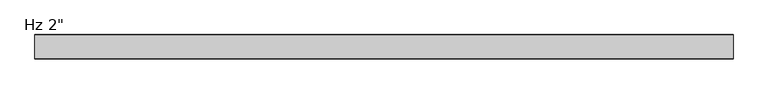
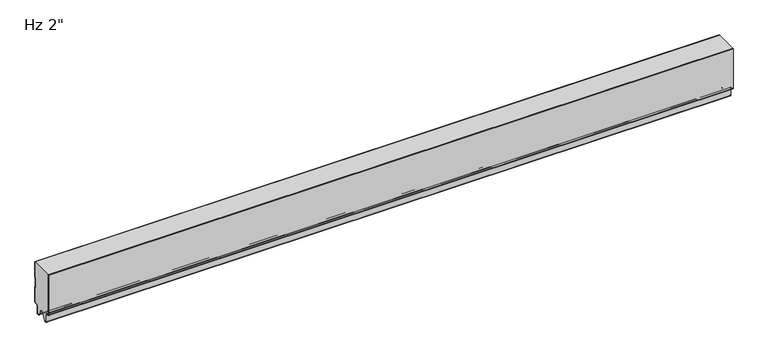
"""IFC4 building model written with IfcOpenShell, lengths in millimetres: plate geometry."""

from ifc_helpers import new_model, si_unit, frame, origin, place, context, project, spatial, polyline, circle_curve, source, transform, mapped, element, save
from ifc_brep_helpers import plane_surface, cylinder_surface, revolved_surface, advanced_brep


def plate_dfe21606(model_context):
    return source(origin(), model_context, "Body", "AdvancedBrep", [
        advanced_brep(
        [(-730.0, -2.9775467, 3.8505994), (-730.0, -5.2690127, 3.8505994), (-730.0, -9.2466047, -0.1269926), (-730.0, -9.2466047, -15.7237817), (-730.0, -9.8343998, -16.3115768), (-730.0, -12.9058755, -16.3115768), (-730.0, -13.4937293, -15.723723), (-730.0, -13.4937293, -13.3687064), (-730.0, -14.4937446, -13.3687064), (-730.0, -14.4937446, -15.6582851), (-730.0, -23.7509179, 0.0), (-730.0, -27.0490865, 0.0), (-730.0, -36.3062598, -15.6582851), (-730.0, -36.3062598, -13.3687064), (-730.0, -37.3062598, -13.3687064), (-730.0, -37.3062598, -15.723742), (-730.0, -37.8941365, -16.3116186), (-730.0, -40.9656854, -16.3116186), (-730.0, -41.5535623, -15.7237417), (-730.0, -41.5535623, -0.1273173), (-730.0, -45.5308295, 3.8499499), (-730.0, -47.8227194, 3.8499499), (-730.0, -49.7999935, 5.8272239), (-730.0, -49.8, 94.95), (-730.0, -1.0000044, 94.95), (-730.0, -1.0000044, 59.9218553), (-730.0, -2.1911639, 58.8493305), (-730.0, -2.1911639, 39.0663358), (-730.0, -0.9994917, 37.993811), (-730.0, -0.9994917, 5.8286544), (730.0, -2.9775467, 3.8505994), (730.0, -0.9994917, 5.8286544), (730.0, -0.9994917, 37.993811), (730.0, -2.1911639, 39.0663358), (730.0, -2.1911639, 58.8493305), (730.0, -1.0000044, 59.9218553), (730.0, -1.0000044, 94.95), (730.0, -49.8, 94.95), (730.0, -49.8, 5.8272239), (730.0, -47.8227194, 3.8499499), (730.0, -45.5308295, 3.8499499), (730.0, -41.5535623, -0.1273173), (730.0, -41.5535623, -15.7237417), (730.0, -40.9656854, -16.3116186), (730.0, -37.8941365, -16.3116186), (730.0, -37.3062598, -15.723742), (730.0, -37.3062598, -13.3687064), (730.0, -36.3062598, -13.3687064), (730.0, -36.3062598, -15.6582851), (730.0, -27.0490865, 0.0), (730.0, -23.7509179, 0.0), (730.0, -14.4937446, -15.6582851), (730.0, -14.4937446, -13.3687064), (730.0, -13.4937293, -13.3687064), (730.0, -13.4937293, -15.723723), (730.0, -12.9058755, -16.3115768), (730.0, -9.8343998, -16.3115768), (730.0, -9.2466047, -15.7237817), (730.0, -9.2466047, -0.1269926), (730.0, -5.2690127, 3.8505994)],
        [
            (0, 1),
            (1, 2, circle_curve(frame((-730.0, -5.2690127, -0.1269926), z_axis=(1.0, 0.0, 0.0), x_axis=(0.0, 1.0, 0.0)), 3.977592)),
            (2, 3),
            (3, 4, circle_curve(frame((-730.0, -9.8343998, -15.7237817), z_axis=(-1.0, 0.0, 0.0), x_axis=(0.0, 1.0, 0.0)), 0.5877951)),
            (4, 5),
            (5, 6, circle_curve(frame((-730.0, -12.9058755, -15.723723), z_axis=(-1.0, 0.0, 0.0), x_axis=(0.0, 1.0, 0.0)), 0.5878538)),
            (6, 7),
            (7, 8),
            (8, 9),
            (9, 10),
            (10, 11),
            (11, 12),
            (12, 13),
            (13, 14),
            (14, 15),
            (15, 16, circle_curve(frame((-730.0, -37.8941365, -15.723742), z_axis=(-1.0, 0.0, 0.0), x_axis=(0.0, 1.0, 0.0)), 0.5878766)),
            (16, 17),
            (17, 18, circle_curve(frame((-730.0, -40.9656854, -15.7237417), z_axis=(-1.0, 0.0, 0.0), x_axis=(0.0, 1.0, 0.0)), 0.5878769)),
            (18, 19),
            (19, 20, circle_curve(frame((-730.0, -45.5308295, -0.1273173), z_axis=(1.0, 0.0, 0.0), x_axis=(0.0, 1.0, 0.0)), 3.9772671)),
            (20, 21),
            (21, 22, circle_curve(frame((-730.0, -47.8227194, 5.8272239), z_axis=(-1.0, 0.0, 0.0), x_axis=(0.0, 1.0, 0.0)), 1.977274)),
            (22, 23),
            (23, 24),
            (24, 25),
            (25, 26),
            (26, 27),
            (27, 28),
            (28, 29),
            (29, 0, circle_curve(frame((-730.0, -2.9775467, 5.8286544), z_axis=(-1.0, 0.0, 0.0), x_axis=(0.0, 1.0, 0.0)), 1.978055)),
            (30, 31, circle_curve(frame((730.0, -2.9775467, 5.8286544), z_axis=(1.0, 0.0, 0.0), x_axis=(0.0, 1.0, 0.0)), 1.978055)),
            (31, 32),
            (32, 33),
            (33, 34),
            (34, 35),
            (35, 36),
            (36, 37),
            (37, 38),
            (38, 39, circle_curve(frame((730.0, -47.8227194, 5.8272239), z_axis=(1.0, 0.0, 0.0), x_axis=(0.0, 1.0, 0.0)), 1.977274)),
            (39, 40),
            (40, 41, circle_curve(frame((730.0, -45.5308295, -0.1273173), z_axis=(-1.0, 0.0, 0.0), x_axis=(0.0, 1.0, 0.0)), 3.9772671)),
            (41, 42),
            (42, 43, circle_curve(frame((730.0, -40.9656854, -15.7237417), z_axis=(1.0, 0.0, 0.0), x_axis=(0.0, 1.0, 0.0)), 0.5878769)),
            (43, 44),
            (44, 45, circle_curve(frame((730.0, -37.8941365, -15.723742), z_axis=(1.0, 0.0, 0.0), x_axis=(0.0, 1.0, 0.0)), 0.5878766)),
            (45, 46),
            (46, 47),
            (47, 48),
            (48, 49),
            (49, 50),
            (50, 51),
            (51, 52),
            (52, 53),
            (53, 54),
            (54, 55, circle_curve(frame((730.0, -12.9058755, -15.723723), z_axis=(1.0, 0.0, 0.0), x_axis=(0.0, 1.0, 0.0)), 0.5878538)),
            (55, 56),
            (56, 57, circle_curve(frame((730.0, -9.8343998, -15.7237817), z_axis=(1.0, 0.0, 0.0), x_axis=(0.0, 1.0, 0.0)), 0.5877951)),
            (57, 58),
            (58, 59, circle_curve(frame((730.0, -5.2690127, -0.1269926), z_axis=(-1.0, 0.0, 0.0), x_axis=(0.0, 1.0, 0.0)), 3.977592)),
            (59, 30),
            (23, 37),
            (36, 24),
            (29, 31),
            (30, 0),
            (22, 38),
            (21, 39),
            (20, 40),
            (19, 41),
            (18, 42),
            (17, 43),
            (16, 44),
            (15, 45),
            (14, 46),
            (13, 47),
            (12, 48),
            (11, 49),
            (10, 50),
            (9, 51),
            (8, 52),
            (7, 53),
            (6, 54),
            (5, 55),
            (4, 56),
            (3, 57),
            (2, 58),
            (1, 59),
            (28, 32),
            (27, 33),
            (26, 34),
            (25, 35),
        ],
        [
            plane_surface(frame((-730.0, -49.8, 576.2625), z_axis=(-1.0, 0.0, 0.0), x_axis=(0.0, -1.0, 0.0))),
            plane_surface(frame((730.0, -49.8, 576.2625), z_axis=(1.0, 0.0, 0.0), x_axis=(0.0, -1.0, 0.0))),
            plane_surface(frame((730.0, 10.0, 94.95), z_axis=(0.0, 0.0, 1.0), x_axis=(-1.0, 0.0, 0.0))),
            cylinder_surface(frame((-730.0, -2.9775467, 5.8286544), z_axis=(-1.0, 0.0, 0.0), x_axis=(0.0, 1.0, 0.0)), 1.978055),
            plane_surface(frame((-730.0, -49.8, 1150.8100652), z_axis=(0.0, -1.0, 0.0), x_axis=(1.0, 0.0, 0.0))),
            cylinder_surface(frame((-730.0, -47.8227194, 5.8272239), z_axis=(-1.0, 0.0, 0.0), x_axis=(0.0, 1.0, 0.0)), 1.977274),
            plane_surface(frame((-730.0, -47.8227194, 3.8499499), z_axis=(0.0, 0.0, -1.0), x_axis=(1.0, 0.0, 0.0))),
            revolved_surface(polyline([(730.0, -41.553562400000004, -0.1273173), (-730.0, -41.553562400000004, -0.1273173)]), (-730.0, -45.5308295, -0.1273173), (1.0, 0.0, 0.0)),
            plane_surface(frame((-730.0, -41.5535623, -0.1273173), z_axis=(0.0, -1.0, 0.0), x_axis=(1.0, 0.0, 0.0))),
            cylinder_surface(frame((-730.0, -40.9656854, -15.7237417), z_axis=(-1.0, 0.0, 0.0), x_axis=(0.0, 1.0, 0.0)), 0.5878769),
            plane_surface(frame((-730.0, -40.9656854, -16.3116186), z_axis=(0.0, 0.0, -1.0), x_axis=(1.0, 0.0, 0.0))),
            cylinder_surface(frame((-730.0, -37.8941365, -15.723742), z_axis=(-1.0, 0.0, 0.0), x_axis=(0.0, 1.0, 0.0)), 0.5878766),
            plane_surface(frame((-730.0, -37.3062598, -15.723742), z_axis=(0.0, 1.0, 0.0), x_axis=(1.0, 0.0, 0.0))),
            plane_surface(frame((-730.0, -37.3062598, -13.3687064), z_axis=(0.0, 0.0, -1.0), x_axis=(1.0, 0.0, 0.0))),
            plane_surface(frame((-730.0, -36.3062598, -13.3687064), z_axis=(0.0, -1.0, 0.0), x_axis=(1.0, 0.0, 0.0))),
            plane_surface(frame((-730.0, -36.3062598, -15.6582851), z_axis=(0.0, 0.8608169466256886, -0.5089147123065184), x_axis=(1.0, 0.0, 0.0))),
            plane_surface(frame((-730.0, -27.0490865, 0.0), z_axis=(0.0, 0.0, -1.0), x_axis=(1.0, 0.0, 0.0))),
            plane_surface(frame((-730.0, -23.7509179, 0.0), z_axis=(0.0, -0.8608169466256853, -0.5089147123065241), x_axis=(1.0, 0.0, 0.0))),
            plane_surface(frame((-730.0, -14.4937446, -15.6582851), z_axis=(0.0, 1.0, 0.0), x_axis=(1.0, 0.0, 0.0))),
            plane_surface(frame((-730.0, -14.4937446, -13.3687064), z_axis=(0.0, 0.0, -1.0), x_axis=(1.0, 0.0, 0.0))),
            plane_surface(frame((-730.0, -13.4937293, -13.3687064), z_axis=(0.0, -1.0, 0.0), x_axis=(1.0, 0.0, 0.0))),
            cylinder_surface(frame((-730.0, -12.9058755, -15.723723), z_axis=(-1.0, 0.0, 0.0), x_axis=(0.0, 1.0, 0.0)), 0.5878538),
            plane_surface(frame((-730.0, -12.9058755, -16.3115768), z_axis=(0.0, 0.0, -1.0), x_axis=(1.0, 0.0, 0.0))),
            cylinder_surface(frame((-730.0, -9.8343998, -15.7237817), z_axis=(-1.0, 0.0, 0.0), x_axis=(0.0, 1.0, 0.0)), 0.5877951),
            plane_surface(frame((-730.0, -9.2466047, -15.7237817), z_axis=(0.0, 1.0, 0.0), x_axis=(1.0, 0.0, 0.0))),
            revolved_surface(polyline([(730.0, -1.2914207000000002, -0.1269926), (-730.0, -1.2914207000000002, -0.1269926)]), (-730.0, -5.2690127, -0.1269926), (1.0, 0.0, 0.0)),
            plane_surface(frame((-730.0, -5.2690127, 3.8505994), z_axis=(0.0, 0.0, -1.0), x_axis=(1.0, 0.0, 0.0))),
            plane_surface(frame((-730.0, -0.9994917, 5.8286544), z_axis=(0.0, 1.0, 0.0), x_axis=(1.0, 0.0, 0.0))),
            plane_surface(frame((-730.0, -0.9994917, 37.993811), z_axis=(0.0, 0.6689715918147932, 0.7432879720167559), x_axis=(1.0, 0.0, 0.0))),
            plane_surface(frame((-730.0, -2.1911639, 39.0663358), z_axis=(0.0, 1.0, 0.0), x_axis=(1.0, 0.0, 0.0))),
            plane_surface(frame((-730.0, -2.1911639, 58.8493305), z_axis=(0.0, 0.6691306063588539, -0.7431448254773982), x_axis=(1.0, 0.0, 0.0))),
            plane_surface(frame((-730.0, -1.0000044, 59.9218553), z_axis=(0.0, 1.0, 0.0), x_axis=(1.0, 0.0, 0.0))),
        ],
        [
            (0, [[1, 2, 3, 4, 5, 6, 7, 8, 9, 10, 11, 12, 13, 14, 15, 16, 17, 18, 19, 20, 21, 22, 23, 24, 25, 26, 27, 28, 29, 30]]),
            (1, [[31, 32, 33, 34, 35, 36, 37, 38, 39, 40, 41, 42, 43, 44, 45, 46, 47, 48, 49, 50, 51, 52, 53, 54, 55, 56, 57, 58, 59, 60]]),
            (2, [[61, -37, 62, -24]]),
            (3, [[63, -31, 64, -30]]),
            (4, [[-38, -61, -23, 65]]),
            (5, [[66, -39, -65, -22]]),
            (6, [[67, -40, -66, -21]]),
            (7, [[68, -41, -67, -20]]),
            (8, [[69, -42, -68, -19]]),
            (9, [[70, -43, -69, -18]]),
            (10, [[71, -44, -70, -17]]),
            (11, [[72, -45, -71, -16]]),
            (12, [[73, -46, -72, -15]]),
            (13, [[74, -47, -73, -14]]),
            (14, [[75, -48, -74, -13]]),
            (15, [[76, -49, -75, -12]]),
            (16, [[77, -50, -76, -11]]),
            (17, [[78, -51, -77, -10]]),
            (18, [[79, -52, -78, -9]]),
            (19, [[80, -53, -79, -8]]),
            (20, [[81, -54, -80, -7]]),
            (21, [[82, -55, -81, -6]]),
            (22, [[83, -56, -82, -5]]),
            (23, [[84, -57, -83, -4]]),
            (24, [[85, -58, -84, -3]]),
            (25, [[86, -59, -85, -2]]),
            (26, [[-64, -60, -86, -1]]),
            (27, [[87, -32, -63, -29]]),
            (28, [[88, -33, -87, -28]]),
            (29, [[89, -34, -88, -27]]),
            (30, [[90, -35, -89, -26]]),
            (31, [[-25, -62, -36, -90]]),
        ],
    ),
        advanced_brep(
        [(-730.0, -1.0, 59.9218553), (-730.0, -1.0, 94.95), (-730.0, 0.0, 94.95), (-730.0, 0.0, 59.479416), (-730.0, -1.1911595, 58.4068912), (-730.0, -1.1911595, 39.5087751), (-730.0, 0.0, 38.4362503), (-730.0, 0.0, 5.8272193), (-730.0, -2.9772904, 2.8499526), (-730.0, -5.2691742, 2.8499526), (-730.0, -8.2464427, -0.1273159), (-730.0, -8.2464427, -15.7237419), (-730.0, -9.8343193, -17.3116185), (-730.0, -12.905868, -17.3116185), (-730.0, -14.4937445, -15.7237419), (-730.0, -14.4937445, -13.3687064), (-730.0, -13.4937445, -13.3687064), (-730.0, -13.4937445, -15.7237419), (-730.0, -12.905868, -16.3116185), (-730.0, -9.8343193, -16.3116185), (-730.0, -9.2464427, -15.7237419), (-730.0, -9.2464427, -0.1273159), (-730.0, -5.2691742, 3.8499526), (-730.0, -2.9772904, 3.8499526), (-730.0, -1.0000218, 5.82722), (-730.0, -1.0, 37.993811), (-730.0, -2.1911595, 39.0663358), (-730.0, -2.1911595, 58.8493305), (730.0, 0.0, 59.479416), (730.0, 0.0, 94.95), (730.0, -1.0, 94.95), (730.0, -1.0, 59.9218553), (730.0, -2.1911595, 58.8493305), (730.0, -2.1911595, 39.0663358), (730.0, -1.0, 37.993811), (730.0, -1.0, 5.82722), (730.0, -2.9772904, 3.8499526), (730.0, -5.2691742, 3.8499526), (730.0, -9.2464427, -0.1273159), (730.0, -9.2464427, -15.7237419), (730.0, -9.8343193, -16.3116185), (730.0, -12.905868, -16.3116185), (730.0, -13.4937445, -15.7237419), (730.0, -13.4937445, -13.3687064), (730.0, -14.4937445, -13.3687064), (730.0, -14.4937445, -15.7237419), (730.0, -12.905868, -17.3116185), (730.0, -9.8343193, -17.3116185), (730.0, -8.2464427, -15.7237419), (730.0, -8.2464427, -0.1273159), (730.0, -5.2691742, 2.8499526), (730.0, -2.9772904, 2.8499526), (730.0, -2.18e-05, 5.8272193), (730.0, 0.0, 38.4362503), (730.0, -1.1911595, 39.5087751), (730.0, -1.1911595, 58.4068912)],
        [
            (0, 1),
            (1, 2),
            (2, 3),
            (3, 4),
            (4, 5),
            (5, 6),
            (6, 7),
            (7, 8, circle_curve(frame((-730.0, -2.9772904, 5.8272211), z_axis=(-1.0, 0.0, 0.0), x_axis=(0.0, 1.0, 0.0)), 2.9772685)),
            (8, 9),
            (9, 10, circle_curve(frame((-730.0, -5.2691742, -0.1273159), z_axis=(1.0, 0.0, 0.0), x_axis=(0.0, 1.0, 0.0)), 2.9772685)),
            (10, 11),
            (11, 12, circle_curve(frame((-730.0, -9.8343193, -15.7237419), z_axis=(-1.0, 0.0, 0.0), x_axis=(0.0, 1.0, 0.0)), 1.5878765)),
            (12, 13),
            (13, 14, circle_curve(frame((-730.0, -12.905868, -15.7237419), z_axis=(-1.0, 0.0, 0.0), x_axis=(0.0, 1.0, 0.0)), 1.5878765)),
            (14, 15),
            (15, 16),
            (16, 17),
            (17, 18, circle_curve(frame((-730.0, -12.905868, -15.7237419), z_axis=(1.0, 0.0, 0.0), x_axis=(0.0, 1.0, 0.0)), 0.5878765)),
            (18, 19),
            (19, 20, circle_curve(frame((-730.0, -9.8343193, -15.7237419), z_axis=(1.0, 0.0, 0.0), x_axis=(0.0, 1.0, 0.0)), 0.5878765)),
            (20, 21),
            (21, 22, circle_curve(frame((-730.0, -5.2691742, -0.1273159), z_axis=(-1.0, 0.0, 0.0), x_axis=(0.0, 1.0, 0.0)), 3.9772685)),
            (22, 23),
            (23, 24, circle_curve(frame((-730.0, -2.9772904, 5.8272212), z_axis=(1.0, 0.0, 0.0), x_axis=(0.0, 1.0, 0.0)), 1.9772685)),
            (24, 25),
            (25, 26),
            (26, 27),
            (27, 0),
            (28, 29),
            (29, 30),
            (30, 31),
            (31, 32),
            (32, 33),
            (33, 34),
            (34, 35),
            (35, 36, circle_curve(frame((730.0, -2.9772904, 5.8272212), z_axis=(-1.0, 0.0, 0.0), x_axis=(0.0, 1.0, 0.0)), 1.9772685)),
            (36, 37),
            (37, 38, circle_curve(frame((730.0, -5.2691742, -0.1273159), z_axis=(1.0, 0.0, 0.0), x_axis=(0.0, 1.0, 0.0)), 3.9772685)),
            (38, 39),
            (39, 40, circle_curve(frame((730.0, -9.8343193, -15.7237419), z_axis=(-1.0, 0.0, 0.0), x_axis=(0.0, 1.0, 0.0)), 0.5878765)),
            (40, 41),
            (41, 42, circle_curve(frame((730.0, -12.905868, -15.7237419), z_axis=(-1.0, 0.0, 0.0), x_axis=(0.0, 1.0, 0.0)), 0.5878765)),
            (42, 43),
            (43, 44),
            (44, 45),
            (45, 46, circle_curve(frame((730.0, -12.905868, -15.7237419), z_axis=(1.0, 0.0, 0.0), x_axis=(0.0, 1.0, 0.0)), 1.5878765)),
            (46, 47),
            (47, 48, circle_curve(frame((730.0, -9.8343193, -15.7237419), z_axis=(1.0, 0.0, 0.0), x_axis=(0.0, 1.0, 0.0)), 1.5878765)),
            (48, 49),
            (49, 50, circle_curve(frame((730.0, -5.2691742, -0.1273159), z_axis=(-1.0, 0.0, 0.0), x_axis=(0.0, 1.0, 0.0)), 2.9772685)),
            (50, 51),
            (51, 52, circle_curve(frame((730.0, -2.9772904, 5.8272211), z_axis=(1.0, 0.0, 0.0), x_axis=(0.0, 1.0, 0.0)), 2.9772685)),
            (52, 53),
            (53, 54),
            (54, 55),
            (55, 28),
            (30, 1),
            (0, 31),
            (27, 32),
            (26, 33),
            (25, 34),
            (24, 35),
            (23, 36),
            (22, 37),
            (21, 38),
            (20, 39),
            (19, 40),
            (18, 41),
            (17, 42),
            (16, 43),
            (15, 44),
            (14, 45),
            (13, 46),
            (12, 47),
            (11, 48),
            (10, 49),
            (9, 50),
            (8, 51),
            (7, 52),
            (6, 53),
            (5, 54),
            (4, 55),
            (3, 28),
            (2, 29),
        ],
        [
            plane_surface(frame((-730.0, 0.0, 576.2625), z_axis=(-1.0, 0.0, 0.0), x_axis=(0.0, 1.0, 0.0))),
            plane_surface(frame((730.0, 0.0, 576.2625), z_axis=(1.0, 0.0, 0.0), x_axis=(0.0, 1.0, 0.0))),
            plane_surface(frame((-730.0, -1.0, 113.6164312), z_axis=(0.0, -1.0, 0.0), x_axis=(1.0, 0.0, 0.0))),
            plane_surface(frame((-730.0, -1.0, 59.9218553), z_axis=(0.0, -0.6691306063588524, 0.7431448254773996), x_axis=(1.0, 0.0, 0.0))),
            plane_surface(frame((-730.0, -2.1911595, 58.8493305), z_axis=(0.0, -1.0, 0.0), x_axis=(1.0, 0.0, 0.0))),
            plane_surface(frame((-730.0, -2.1911595, 39.0663358), z_axis=(0.0, -0.6691306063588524, -0.7431448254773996), x_axis=(1.0, 0.0, 0.0))),
            plane_surface(frame((-730.0, -1.0, 37.993811), z_axis=(0.0, -1.0, 0.0), x_axis=(1.0, 0.0, 0.0))),
            revolved_surface(polyline([(730.0, -1.0000218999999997, 5.8272212), (-730.0, -1.0000218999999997, 5.8272212)]), (-730.0, -2.9772904, 5.8272212), (1.0, 0.0, 0.0)),
            plane_surface(frame((-730.0, -2.9772904, 3.8499526), z_axis=(0.0, 0.0, 1.0), x_axis=(1.0, 0.0, 0.0))),
            cylinder_surface(frame((-730.0, -5.2691742, -0.1273159), z_axis=(-1.0, 0.0, 0.0), x_axis=(0.0, 1.0, 0.0)), 3.9772685),
            plane_surface(frame((-730.0, -9.2464427, -0.1273159), z_axis=(0.0, -1.0, 0.0), x_axis=(1.0, 0.0, 0.0))),
            revolved_surface(polyline([(730.0, -9.2464428, -15.7237419), (-730.0, -9.2464428, -15.7237419)]), (-730.0, -9.8343193, -15.7237419), (1.0, 0.0, 0.0)),
            plane_surface(frame((-730.0, -9.8343193, -16.3116185), z_axis=(0.0, 0.0, 1.0), x_axis=(1.0, 0.0, 0.0))),
            revolved_surface(polyline([(730.0, -12.3179915, -15.7237419), (-730.0, -12.3179915, -15.7237419)]), (-730.0, -12.905868, -15.7237419), (1.0, 0.0, 0.0)),
            plane_surface(frame((-730.0, -13.4937445, -15.7237419), z_axis=(0.0, 1.0, 0.0), x_axis=(1.0, 0.0, 0.0))),
            plane_surface(frame((-730.0, -13.4937445, -13.3687064), z_axis=(0.0, 0.0, 1.0), x_axis=(1.0, 0.0, 0.0))),
            plane_surface(frame((-730.0, -14.4937445, -13.3687064), z_axis=(0.0, -1.0, 0.0), x_axis=(1.0, 0.0, 0.0))),
            cylinder_surface(frame((-730.0, -12.905868, -15.7237419), z_axis=(-1.0, 0.0, 0.0), x_axis=(0.0, 1.0, 0.0)), 1.5878765),
            plane_surface(frame((-730.0, -12.905868, -17.3116185), z_axis=(0.0, 0.0, -1.0), x_axis=(1.0, 0.0, 0.0))),
            cylinder_surface(frame((-730.0, -9.8343193, -15.7237419), z_axis=(-1.0, 0.0, 0.0), x_axis=(0.0, 1.0, 0.0)), 1.5878765),
            plane_surface(frame((-730.0, -8.2464427, -15.7237419), z_axis=(0.0, 1.0, 0.0), x_axis=(1.0, 0.0, 0.0))),
            revolved_surface(polyline([(730.0, -2.2919057, -0.1273159), (-730.0, -2.2919057, -0.1273159)]), (-730.0, -5.2691742, -0.1273159), (1.0, 0.0, 0.0)),
            plane_surface(frame((-730.0, -5.2691742, 2.8499526), z_axis=(0.0, 0.0, -1.0), x_axis=(1.0, 0.0, 0.0))),
            cylinder_surface(frame((-730.0, -2.9772904, 5.8272211), z_axis=(-1.0, 0.0, 0.0), x_axis=(0.0, 1.0, 0.0)), 2.9772685),
            plane_surface(frame((-730.0, 0.0, 5.8272193), z_axis=(0.0, 1.0, 0.0), x_axis=(1.0, 0.0, 0.0))),
            plane_surface(frame((-730.0, 0.0, 38.4362503), z_axis=(0.0, 0.6691306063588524, 0.7431448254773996), x_axis=(1.0, 0.0, 0.0))),
            plane_surface(frame((-730.0, -1.1911595, 39.5087751), z_axis=(0.0, 1.0, 0.0), x_axis=(1.0, 0.0, 0.0))),
            plane_surface(frame((-730.0, -1.1911595, 58.4068912), z_axis=(0.0, 0.6691306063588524, -0.7431448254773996), x_axis=(1.0, 0.0, 0.0))),
            plane_surface(frame((-730.0, 0.0, 59.479416), z_axis=(0.0, 1.0, 0.0), x_axis=(1.0, 0.0, 0.0))),
            plane_surface(frame((730.0, 10.0, 94.95), z_axis=(0.0, 0.0, 1.0), x_axis=(-1.0, 0.0, 0.0))),
        ],
        [
            (0, [[1, 2, 3, 4, 5, 6, 7, 8, 9, 10, 11, 12, 13, 14, 15, 16, 17, 18, 19, 20, 21, 22, 23, 24, 25, 26, 27, 28]]),
            (1, [[29, 30, 31, 32, 33, 34, 35, 36, 37, 38, 39, 40, 41, 42, 43, 44, 45, 46, 47, 48, 49, 50, 51, 52, 53, 54, 55, 56]]),
            (2, [[-31, 57, -1, 58]]),
            (3, [[59, -32, -58, -28]]),
            (4, [[60, -33, -59, -27]]),
            (5, [[61, -34, -60, -26]]),
            (6, [[62, -35, -61, -25]]),
            (7, [[63, -36, -62, -24]]),
            (8, [[64, -37, -63, -23]]),
            (9, [[65, -38, -64, -22]]),
            (10, [[66, -39, -65, -21]]),
            (11, [[67, -40, -66, -20]]),
            (12, [[68, -41, -67, -19]]),
            (13, [[69, -42, -68, -18]]),
            (14, [[70, -43, -69, -17]]),
            (15, [[71, -44, -70, -16]]),
            (16, [[72, -45, -71, -15]]),
            (17, [[73, -46, -72, -14]]),
            (18, [[74, -47, -73, -13]]),
            (19, [[75, -48, -74, -12]]),
            (20, [[76, -49, -75, -11]]),
            (21, [[77, -50, -76, -10]]),
            (22, [[78, -51, -77, -9]]),
            (23, [[79, -52, -78, -8]]),
            (24, [[80, -53, -79, -7]]),
            (25, [[81, -54, -80, -6]]),
            (26, [[82, -55, -81, -5]]),
            (27, [[83, -56, -82, -4]]),
            (28, [[-3, 84, -29, -83]]),
            (29, [[-57, -30, -84, -2]]),
        ],
    ),
        advanced_brep(
        [(-730.0, -47.8223811, 3.8501063), (-730.0, -45.5308685, 3.8501063), (-730.0, -41.5535232, -0.1272391), (-730.0, -41.5535232, -15.7237514), (-730.0, -40.965666, -16.3116086), (-730.0, -37.8941346, -16.3116086), (-730.0, -37.3062635, -15.7237374), (-730.0, -37.3062635, -13.3687064), (-730.0, -36.3062599, -13.3687064), (-730.0, -36.3062599, -15.7237419), (-730.0, -37.8941364, -17.3116185), (-730.0, -40.9656851, -17.3116185), (-730.0, -42.5535616, -15.7237419), (-730.0, -42.5535616, -0.1273159), (-730.0, -45.5308302, 2.8499526), (-730.0, -47.822714, 2.8499526), (-730.0, -50.7999825, 5.8272211), (-730.0, -50.8, 94.95), (-730.0, -49.7992912, 94.95), (-730.0, -49.7992912, 5.8270163), (730.0, -47.8223811, 3.8501063), (730.0, -49.7992912, 5.8270163), (730.0, -49.7992912, 94.95), (730.0, -50.8, 94.95), (730.0, -50.8, 5.8272211), (730.0, -47.822714, 2.8499526), (730.0, -45.5308302, 2.8499526), (730.0, -42.5535616, -0.1273159), (730.0, -42.5535616, -15.7237419), (730.0, -40.9656851, -17.3116185), (730.0, -37.8941364, -17.3116185), (730.0, -36.3062599, -15.7237419), (730.0, -36.3062599, -13.3687064), (730.0, -37.3062635, -13.3687064), (730.0, -37.3062635, -15.7237374), (730.0, -37.8941346, -16.3116086), (730.0, -40.965666, -16.3116086), (730.0, -41.5535232, -15.7237514), (730.0, -41.5535232, -0.1272391), (730.0, -45.5308685, 3.8501063)],
        [
            (0, 1),
            (1, 2, circle_curve(frame((-730.0, -45.5308685, -0.1272391), z_axis=(-1.0, 0.0, 0.0), x_axis=(0.0, 0.0, -1.0)), 3.9773454)),
            (2, 3),
            (3, 4, circle_curve(frame((-730.0, -40.965666, -15.7237514), z_axis=(1.0, 0.0, 0.0), x_axis=(0.0, 0.0, -1.0)), 0.5878572)),
            (4, 5),
            (5, 6, circle_curve(frame((-730.0, -37.8941346, -15.7237374), z_axis=(1.0, 0.0, 0.0), x_axis=(0.0, 0.0, -1.0)), 0.5878711)),
            (6, 7),
            (7, 8),
            (8, 9),
            (9, 10, circle_curve(frame((-730.0, -37.8941364, -15.7237419), z_axis=(-1.0, 0.0, 0.0), x_axis=(0.0, 0.0, -1.0)), 1.5878765)),
            (10, 11),
            (11, 12, circle_curve(frame((-730.0, -40.9656851, -15.7237419), z_axis=(-1.0, 0.0, 0.0), x_axis=(0.0, 0.0, -1.0)), 1.5878765)),
            (12, 13),
            (13, 14, circle_curve(frame((-730.0, -45.5308302, -0.1273159), z_axis=(1.0, 0.0, 0.0), x_axis=(0.0, 0.0, -1.0)), 2.9772685)),
            (14, 15),
            (15, 16, circle_curve(frame((-730.0, -47.822714, 5.8272211), z_axis=(-1.0, 0.0, 0.0), x_axis=(0.0, 0.0, -1.0)), 2.9772685)),
            (16, 17),
            (17, 18),
            (18, 19),
            (19, 0, circle_curve(frame((-730.0, -47.8223811, 5.8270163), z_axis=(1.0, 0.0, 0.0), x_axis=(0.0, 0.0, -1.0)), 1.9769101)),
            (20, 21, circle_curve(frame((730.0, -47.8223811, 5.8270163), z_axis=(-1.0, 0.0, 0.0), x_axis=(0.0, 0.0, -1.0)), 1.9769101)),
            (21, 22),
            (22, 23),
            (23, 24),
            (24, 25, circle_curve(frame((730.0, -47.822714, 5.8272211), z_axis=(1.0, 0.0, 0.0), x_axis=(0.0, 0.0, -1.0)), 2.9772685)),
            (25, 26),
            (26, 27, circle_curve(frame((730.0, -45.5308302, -0.1273159), z_axis=(-1.0, 0.0, 0.0), x_axis=(0.0, 0.0, -1.0)), 2.9772685)),
            (27, 28),
            (28, 29, circle_curve(frame((730.0, -40.9656851, -15.7237419), z_axis=(1.0, 0.0, 0.0), x_axis=(0.0, 0.0, -1.0)), 1.5878765)),
            (29, 30),
            (30, 31, circle_curve(frame((730.0, -37.8941364, -15.7237419), z_axis=(1.0, 0.0, 0.0), x_axis=(0.0, 0.0, -1.0)), 1.5878765)),
            (31, 32),
            (32, 33),
            (33, 34),
            (34, 35, circle_curve(frame((730.0, -37.8941346, -15.7237374), z_axis=(-1.0, 0.0, 0.0), x_axis=(0.0, 0.0, -1.0)), 0.5878711)),
            (35, 36),
            (36, 37, circle_curve(frame((730.0, -40.965666, -15.7237514), z_axis=(-1.0, 0.0, 0.0), x_axis=(0.0, 0.0, -1.0)), 0.5878572)),
            (37, 38),
            (38, 39, circle_curve(frame((730.0, -45.5308685, -0.1272391), z_axis=(1.0, 0.0, 0.0), x_axis=(0.0, 0.0, -1.0)), 3.9773454)),
            (39, 20),
            (17, 23),
            (22, 18),
            (19, 21),
            (20, 0),
            (16, 24),
            (15, 25),
            (14, 26),
            (13, 27),
            (12, 28),
            (11, 29),
            (10, 30),
            (9, 31),
            (8, 32),
            (7, 33),
            (6, 34),
            (5, 35),
            (4, 36),
            (3, 37),
            (2, 38),
            (1, 39),
        ],
        [
            plane_surface(frame((-730.0, -50.8, 576.2625), z_axis=(-1.0, 0.0, 0.0), x_axis=(0.0, -1.0, 0.0))),
            plane_surface(frame((730.0, -50.8, 576.2625), z_axis=(1.0, 0.0, 0.0), x_axis=(0.0, -1.0, 0.0))),
            plane_surface(frame((730.0, 10.0, 94.95), z_axis=(0.0, 0.0, 1.0), x_axis=(-1.0, 0.0, 0.0))),
            revolved_surface(polyline([(730.0, -47.8223811, 3.8501062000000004), (-730.0, -47.8223811, 3.8501062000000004)]), (-730.0, -47.8223811, 5.8270163), (1.0, 0.0, 0.0)),
            plane_surface(frame((-730.0, -49.7992912, 5.8270163), z_axis=(0.0, 1.0, 0.0), x_axis=(1.0, 0.0, 0.0))),
            plane_surface(frame((-730.0, -50.8, 1150.8100652), z_axis=(0.0, -1.0, 0.0), x_axis=(1.0, 0.0, 0.0))),
            cylinder_surface(frame((-730.0, -47.822714, 5.8272211), z_axis=(-1.0, 0.0, 0.0), x_axis=(0.0, 0.0, -1.0)), 2.9772685),
            plane_surface(frame((-730.0, -47.822714, 2.8499526), z_axis=(0.0, 0.0, -1.0), x_axis=(1.0, 0.0, 0.0))),
            revolved_surface(polyline([(730.0, -45.5308302, -3.1045844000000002), (-730.0, -45.5308302, -3.1045844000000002)]), (-730.0, -45.5308302, -0.1273159), (1.0, 0.0, 0.0)),
            plane_surface(frame((-730.0, -42.5535616, -0.1273159), z_axis=(0.0, -1.0, 0.0), x_axis=(1.0, 0.0, 0.0))),
            cylinder_surface(frame((-730.0, -40.9656851, -15.7237419), z_axis=(-1.0, 0.0, 0.0), x_axis=(0.0, 0.0, -1.0)), 1.5878765),
            plane_surface(frame((-730.0, -40.9656851, -17.3116185), z_axis=(0.0, 0.0, -1.0), x_axis=(1.0, 0.0, 0.0))),
            cylinder_surface(frame((-730.0, -37.8941364, -15.7237419), z_axis=(-1.0, 0.0, 0.0), x_axis=(0.0, 0.0, -1.0)), 1.5878765),
            plane_surface(frame((-730.0, -36.3062599, -15.7237419), z_axis=(0.0, 1.0, 0.0), x_axis=(1.0, 0.0, 0.0))),
            plane_surface(frame((-730.0, -36.3062599, -13.3687064), z_axis=(0.0, 0.0, 1.0), x_axis=(1.0, 0.0, 0.0))),
            plane_surface(frame((-730.0, -37.3062635, -13.3687064), z_axis=(0.0, -1.0, 0.0), x_axis=(1.0, 0.0, 0.0))),
            revolved_surface(polyline([(730.0, -37.8941346, -16.3116085), (-730.0, -37.8941346, -16.3116085)]), (-730.0, -37.8941346, -15.7237374), (1.0, 0.0, 0.0)),
            plane_surface(frame((-730.0, -37.8941346, -16.3116086), z_axis=(0.0, 0.0, 1.0), x_axis=(1.0, 0.0, 0.0))),
            revolved_surface(polyline([(730.0, -40.965666, -16.3116086), (-730.0, -40.965666, -16.3116086)]), (-730.0, -40.965666, -15.7237514), (1.0, 0.0, 0.0)),
            plane_surface(frame((-730.0, -41.5535232, -15.7237514), z_axis=(0.0, 1.0, 0.0), x_axis=(1.0, 0.0, 0.0))),
            cylinder_surface(frame((-730.0, -45.5308685, -0.1272391), z_axis=(-1.0, 0.0, 0.0), x_axis=(0.0, 0.0, -1.0)), 3.9773454),
            plane_surface(frame((-730.0, -45.5308685, 3.8501063), z_axis=(0.0, 0.0, 1.0), x_axis=(1.0, 0.0, 0.0))),
        ],
        [
            (0, [[1, 2, 3, 4, 5, 6, 7, 8, 9, 10, 11, 12, 13, 14, 15, 16, 17, 18, 19, 20]]),
            (1, [[21, 22, 23, 24, 25, 26, 27, 28, 29, 30, 31, 32, 33, 34, 35, 36, 37, 38, 39, 40]]),
            (2, [[41, -23, 42, -18]]),
            (3, [[43, -21, 44, -20]]),
            (4, [[-19, -42, -22, -43]]),
            (5, [[-24, -41, -17, 45]]),
            (6, [[46, -25, -45, -16]]),
            (7, [[47, -26, -46, -15]]),
            (8, [[48, -27, -47, -14]]),
            (9, [[49, -28, -48, -13]]),
            (10, [[50, -29, -49, -12]]),
            (11, [[51, -30, -50, -11]]),
            (12, [[52, -31, -51, -10]]),
            (13, [[53, -32, -52, -9]]),
            (14, [[54, -33, -53, -8]]),
            (15, [[55, -34, -54, -7]]),
            (16, [[56, -35, -55, -6]]),
            (17, [[57, -36, -56, -5]]),
            (18, [[58, -37, -57, -4]]),
            (19, [[59, -38, -58, -3]]),
            (20, [[60, -39, -59, -2]]),
            (21, [[-44, -40, -60, -1]]),
        ],
    ),
    ])


if __name__ == "__main__":
    model = new_model("IFC4")
    model_context = context("Model", 3, world=origin())
    ifc_project = project(units=[si_unit("LENGTHUNIT", "METRE", prefix="MILLI")], contexts=[model_context])
    site = spatial("IfcSite", under=ifc_project)
    building = spatial("IfcBuilding", under=site)
    placement = place(None, origin())
    plate_shape = plate_dfe21606(model_context)
    element("IfcPlate", 1, ObjectType="KIP-SLI-FLI-R19-CP-Hz-FL_SL : Hz 2\"", at=placement, inside=building, context=model_context, shape_type="MappedRepresentation", body=[
        mapped(plate_shape, transform((0.0, 0.0, 0.0), x_axis=(1.0, 0.0, 0.0), y_axis=(0.0, 1.0, 0.0), z_axis=(0.0, 0.0, 1.0))),
    ])
    save(model, "model.ifc")
